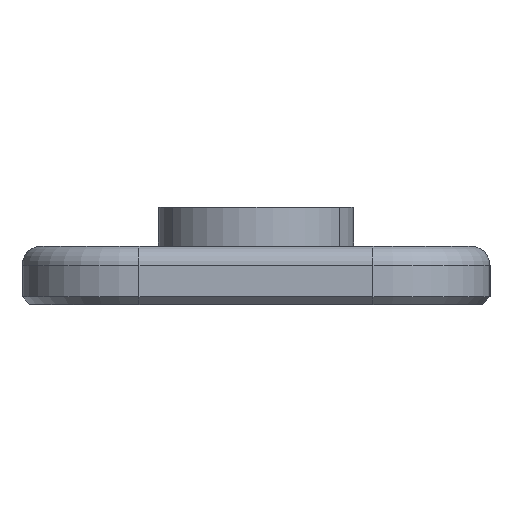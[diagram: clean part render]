
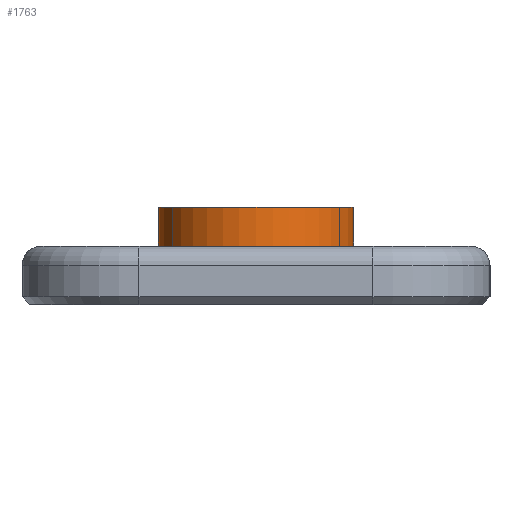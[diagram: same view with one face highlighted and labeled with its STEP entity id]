
A CAD part, left-side view. The second image highlights one B-rep face of the part: STEP entity #1763.
In plain terms, the highlighted cylindrical face has radius 2.5 mm (diameter 5 mm), a full revolution.
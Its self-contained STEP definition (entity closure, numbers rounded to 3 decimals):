
#362 = PLANE('',#363);
#363 = AXIS2_PLACEMENT_3D('',#364,#365,#366);
#364 = CARTESIAN_POINT('',(0.,0.,1.5));
#365 = DIRECTION('',(0.,0.,1.));
#366 = DIRECTION('',(1.,0.,-0.));
#1110 = EDGE_CURVE('',#1111,#1111,#1113,.T.);
#1111 = VERTEX_POINT('',#1112);
#1112 = CARTESIAN_POINT('',(-157.5,0.,1.5));
#1113 = SURFACE_CURVE('',#1114,(#1119,#1126),.PCURVE_S1.);
#1114 = CIRCLE('',#1115,2.5);
#1115 = AXIS2_PLACEMENT_3D('',#1116,#1117,#1118);
#1116 = CARTESIAN_POINT('',(-160.,0.,1.5));
#1117 = DIRECTION('',(0.,0.,1.));
#1118 = DIRECTION('',(1.,0.,-0.));
#1119 = PCURVE('',#362,#1120);
#1120 = DEFINITIONAL_REPRESENTATION('',(#1121),#1125);
#1121 = CIRCLE('',#1122,2.5);
#1122 = AXIS2_PLACEMENT_2D('',#1123,#1124);
#1123 = CARTESIAN_POINT('',(-160.,0.));
#1124 = DIRECTION('',(1.,0.));
#1125 = ( GEOMETRIC_REPRESENTATION_CONTEXT(2) 
PARAMETRIC_REPRESENTATION_CONTEXT() REPRESENTATION_CONTEXT('2D SPACE',''
  ) );
#1126 = PCURVE('',#1127,#1132);
#1127 = CYLINDRICAL_SURFACE('',#1128,2.5);
#1128 = AXIS2_PLACEMENT_3D('',#1129,#1130,#1131);
#1129 = CARTESIAN_POINT('',(-160.,0.,1.49));
#1130 = DIRECTION('',(0.,0.,1.));
#1131 = DIRECTION('',(1.,0.,-0.));
#1132 = DEFINITIONAL_REPRESENTATION('',(#1133),#1137);
#1133 = LINE('',#1134,#1135);
#1134 = CARTESIAN_POINT('',(0.,0.01));
#1135 = VECTOR('',#1136,1.);
#1136 = DIRECTION('',(1.,0.));
#1137 = ( GEOMETRIC_REPRESENTATION_CONTEXT(2) 
PARAMETRIC_REPRESENTATION_CONTEXT() REPRESENTATION_CONTEXT('2D SPACE',''
  ) );
#1546 = PLANE('',#1547);
#1547 = AXIS2_PLACEMENT_3D('',#1548,#1549,#1550);
#1548 = CARTESIAN_POINT('',(-160.,0.,2.49));
#1549 = DIRECTION('',(0.,0.,1.));
#1550 = DIRECTION('',(1.,0.,-0.));
#1763 = ADVANCED_FACE('',(#1764),#1127,.T.);
#1764 = FACE_BOUND('',#1765,.T.);
#1765 = EDGE_LOOP('',(#1766,#1789,#1811,#1812));
#1766 = ORIENTED_EDGE('',*,*,#1767,.T.);
#1767 = EDGE_CURVE('',#1111,#1768,#1770,.T.);
#1768 = VERTEX_POINT('',#1769);
#1769 = CARTESIAN_POINT('',(-157.5,0.,2.49));
#1770 = SEAM_CURVE('',#1771,(#1775,#1782),.PCURVE_S1.);
#1771 = LINE('',#1772,#1773);
#1772 = CARTESIAN_POINT('',(-157.5,0.,1.49));
#1773 = VECTOR('',#1774,1.);
#1774 = DIRECTION('',(0.,0.,1.));
#1775 = PCURVE('',#1127,#1776);
#1776 = DEFINITIONAL_REPRESENTATION('',(#1777),#1781);
#1777 = LINE('',#1778,#1779);
#1778 = CARTESIAN_POINT('',(6.283,-0.));
#1779 = VECTOR('',#1780,1.);
#1780 = DIRECTION('',(0.,1.));
#1781 = ( GEOMETRIC_REPRESENTATION_CONTEXT(2) 
PARAMETRIC_REPRESENTATION_CONTEXT() REPRESENTATION_CONTEXT('2D SPACE',''
  ) );
#1782 = PCURVE('',#1127,#1783);
#1783 = DEFINITIONAL_REPRESENTATION('',(#1784),#1788);
#1784 = LINE('',#1785,#1786);
#1785 = CARTESIAN_POINT('',(0.,-0.));
#1786 = VECTOR('',#1787,1.);
#1787 = DIRECTION('',(0.,1.));
#1788 = ( GEOMETRIC_REPRESENTATION_CONTEXT(2) 
PARAMETRIC_REPRESENTATION_CONTEXT() REPRESENTATION_CONTEXT('2D SPACE',''
  ) );
#1789 = ORIENTED_EDGE('',*,*,#1790,.F.);
#1790 = EDGE_CURVE('',#1768,#1768,#1791,.T.);
#1791 = SURFACE_CURVE('',#1792,(#1797,#1804),.PCURVE_S1.);
#1792 = CIRCLE('',#1793,2.5);
#1793 = AXIS2_PLACEMENT_3D('',#1794,#1795,#1796);
#1794 = CARTESIAN_POINT('',(-160.,0.,2.49));
#1795 = DIRECTION('',(0.,0.,1.));
#1796 = DIRECTION('',(1.,0.,-0.));
#1797 = PCURVE('',#1127,#1798);
#1798 = DEFINITIONAL_REPRESENTATION('',(#1799),#1803);
#1799 = LINE('',#1800,#1801);
#1800 = CARTESIAN_POINT('',(0.,1.));
#1801 = VECTOR('',#1802,1.);
#1802 = DIRECTION('',(1.,0.));
#1803 = ( GEOMETRIC_REPRESENTATION_CONTEXT(2) 
PARAMETRIC_REPRESENTATION_CONTEXT() REPRESENTATION_CONTEXT('2D SPACE',''
  ) );
#1804 = PCURVE('',#1546,#1805);
#1805 = DEFINITIONAL_REPRESENTATION('',(#1806),#1810);
#1806 = CIRCLE('',#1807,2.5);
#1807 = AXIS2_PLACEMENT_2D('',#1808,#1809);
#1808 = CARTESIAN_POINT('',(0.,0.));
#1809 = DIRECTION('',(1.,0.));
#1810 = ( GEOMETRIC_REPRESENTATION_CONTEXT(2) 
PARAMETRIC_REPRESENTATION_CONTEXT() REPRESENTATION_CONTEXT('2D SPACE',''
  ) );
#1811 = ORIENTED_EDGE('',*,*,#1767,.F.);
#1812 = ORIENTED_EDGE('',*,*,#1110,.T.);
